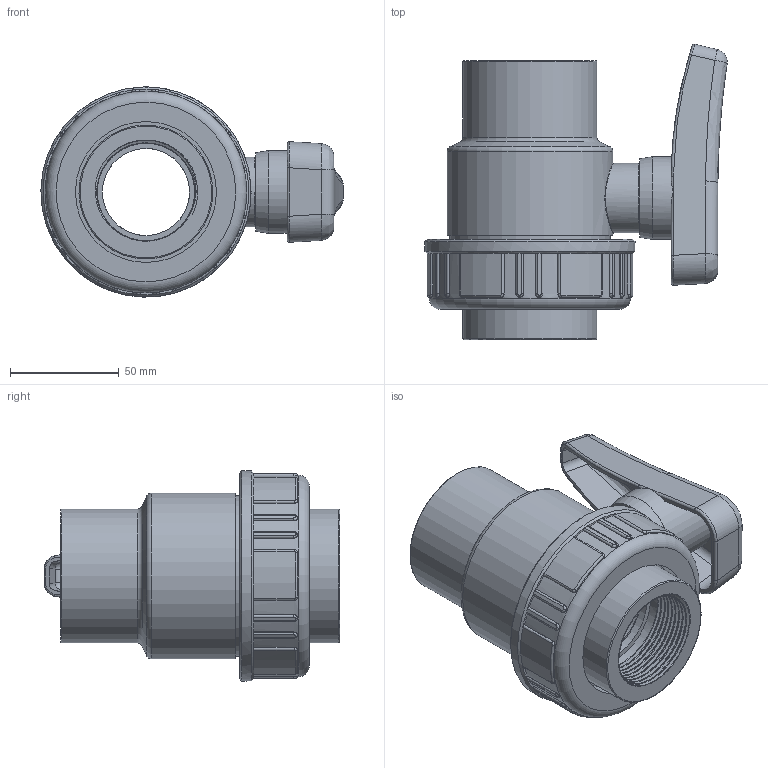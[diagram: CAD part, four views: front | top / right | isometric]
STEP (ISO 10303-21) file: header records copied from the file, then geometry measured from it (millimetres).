
FILE_DESCRIPTION(/* description */ (''),/* implementation_level */ '2;1');
FILE_NAME(/* name */ 'C:\Users\POLYPIPE\Desktop\DATASET INVENTOR\LIBRERIA EFFAST\3D_VALVOLE\3D_VALVOLE A SFERA\3D_SV\3D_BERSVE\3D_BERSVE050F.stp',/* time_stamp */ '2018-01-24T14:58:17+01:00',/* author */ ('POLYPIPE'),/* organization */ (''),/* preprocessor_version */ 'ST-DEVELOPER v16.1',/* originating_system */ 'Autodesk Inventor 2016',/* authorisation */ '');
FILE_SCHEMA (('CONFIG_CONTROL_DESIGN'));
Length unit declared in the file: centimetre
Products named in the file (1): 3D_BERSVE050F
Bounding box: 138.79 x 135.66 x 96.49 mm (x, y, z)
Volume: 429555.8 mm3; surface area: 103572.4 mm2
Topology: 2 solids, 2 shells, 354 faces, 866 edges, 519 vertices
Faces by surface type: cylinder 112, bspline 105, plane 102, torus 19, sphere 12, cone 4
Full cylindrical faces by diameter (mm): 19.8 x1, 32 x1, 38 x1, 40 x2, 44.845 x2, 61.5 x2, 64.7 x1, 72 x1, 73.7 x1, 76 x1, 78.5 x1, 92.5 x1, 96.5 x1
Entity records: 39767 total; most frequent: CARTESIAN_POINT 31645, ORIENTED_EDGE 1664, DIRECTION 1493, EDGE_CURVE 832, AXIS2_PLACEMENT_3D 593, VERTEX_POINT 510, EDGE_LOOP 392, STYLED_ITEM 356
